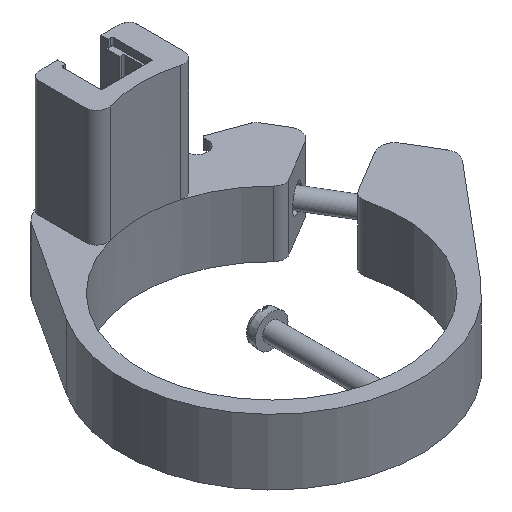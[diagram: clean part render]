
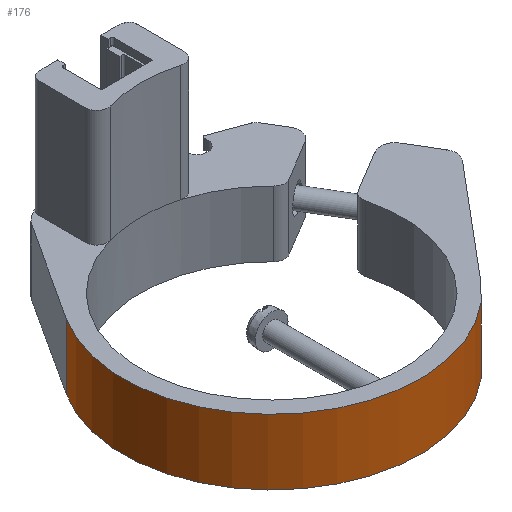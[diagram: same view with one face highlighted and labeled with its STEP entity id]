
A CAD part, isometric view. The second image highlights one B-rep face of the part: STEP entity #176.
In plain terms, the highlighted cylindrical face has radius 20.4 mm (diameter 40.8 mm), a partial arc.
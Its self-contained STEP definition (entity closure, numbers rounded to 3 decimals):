
#176 = ADVANCED_FACE( '', ( #284 ), #285, .T. );
#284 = FACE_OUTER_BOUND( '', #468, .T. );
#285 = CYLINDRICAL_SURFACE( '', #469, 20.4 );
#468 = EDGE_LOOP( '', ( #712, #713, #714, #715 ) );
#469 = AXIS2_PLACEMENT_3D( '', #716, #717, #718 );
#712 = ORIENTED_EDGE( '', *, *, #1366, .T. );
#713 = ORIENTED_EDGE( '', *, *, #1323, .F. );
#714 = ORIENTED_EDGE( '', *, *, #1367, .F. );
#715 = ORIENTED_EDGE( '', *, *, #1326, .T. );
#716 = CARTESIAN_POINT( '', ( 0., 0., 4.5 ) );
#717 = DIRECTION( '', ( 0., 0., 1. ) );
#718 = DIRECTION( '', ( -1., 0., 0. ) );
#1323 = EDGE_CURVE( '', #1545, #1540, #1547, .T. );
#1326 = EDGE_CURVE( '', #1553, #1551, #1554, .T. );
#1366 = EDGE_CURVE( '', #1551, #1540, #1627, .T. );
#1367 = EDGE_CURVE( '', #1553, #1545, #1628, .T. );
#1540 = VERTEX_POINT( '', #1909 );
#1545 = VERTEX_POINT( '', #1916 );
#1547 = LINE( '', #1919, #1920 );
#1551 = VERTEX_POINT( '', #1924 );
#1553 = VERTEX_POINT( '', #1927 );
#1554 = LINE( '', #1928, #1929 );
#1627 = CIRCLE( '', #2103, 20.4 );
#1628 = CIRCLE( '', #2104, 20.4 );
#1909 = CARTESIAN_POINT( '', ( 15.627, -13.113, -4.5 ) );
#1916 = CARTESIAN_POINT( '', ( 15.627, -13.113, 4.5 ) );
#1919 = CARTESIAN_POINT( '', ( 15.627, -13.113, 4.5 ) );
#1920 = VECTOR( '', #2537, 1000. );
#1924 = CARTESIAN_POINT( '', ( -17.104, 11.118, -4.5 ) );
#1927 = CARTESIAN_POINT( '', ( -17.104, 11.118, 4.5 ) );
#1928 = CARTESIAN_POINT( '', ( -17.104, 11.118, 4.5 ) );
#1929 = VECTOR( '', #2542, 1000. );
#2103 = AXIS2_PLACEMENT_3D( '', #2596, #2597, #2598 );
#2104 = AXIS2_PLACEMENT_3D( '', #2599, #2600, #2601 );
#2537 = DIRECTION( '', ( 0., 0., -1. ) );
#2542 = DIRECTION( '', ( 0., 0., -1. ) );
#2596 = CARTESIAN_POINT( '', ( 0., 0., -4.5 ) );
#2597 = DIRECTION( '', ( 0., 0., 1. ) );
#2598 = DIRECTION( '', ( 1., 0., 0. ) );
#2599 = CARTESIAN_POINT( '', ( 0., 0., 4.5 ) );
#2600 = DIRECTION( '', ( 0., 0., 1. ) );
#2601 = DIRECTION( '', ( 1., 0., 0. ) );
